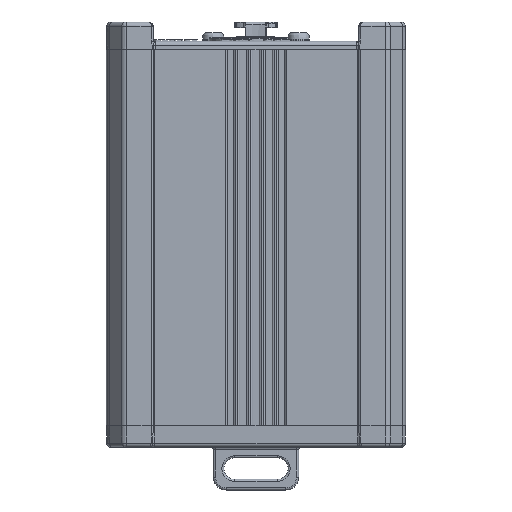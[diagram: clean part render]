
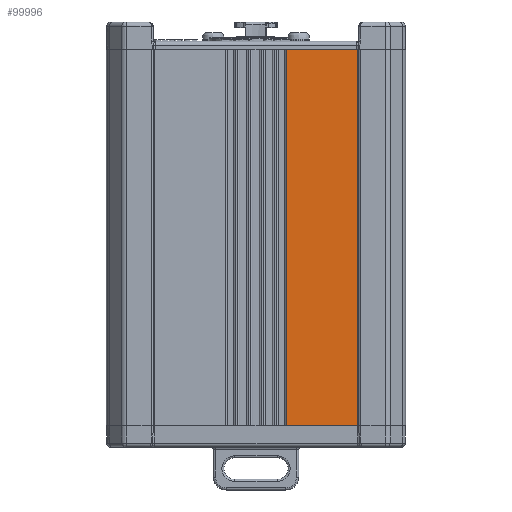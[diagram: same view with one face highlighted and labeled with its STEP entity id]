
A CAD part, front view. The second image highlights one B-rep face of the part: STEP entity #99996.
In plain terms, the highlighted planar face has unit normal (0, -1, 0).
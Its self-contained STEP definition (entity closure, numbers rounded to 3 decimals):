
#2516=FACE_OUTER_BOUND('',#8027,.T.);
#8027=EDGE_LOOP('',(#66004,#66005,#66006,#66007));
#15468=LINE('',#139807,#27933);
#15591=LINE('',#140340,#28056);
#15717=LINE('',#140670,#28182);
#15718=LINE('',#140672,#28183);
#27933=VECTOR('',#113045,16.384);
#28056=VECTOR('',#113472,16.384);
#28182=VECTOR('',#113852,88.);
#28183=VECTOR('',#113855,88.);
#40437=VERTEX_POINT('',#139804);
#40438=VERTEX_POINT('',#139806);
#40695=VERTEX_POINT('',#140337);
#40696=VERTEX_POINT('',#140339);
#50231=EDGE_CURVE('',#40437,#40438,#15468,.T.);
#50493=EDGE_CURVE('',#40696,#40695,#15591,.T.);
#50661=EDGE_CURVE('',#40696,#40437,#15717,.T.);
#50662=EDGE_CURVE('',#40695,#40438,#15718,.T.);
#66004=ORIENTED_EDGE('',*,*,#50662,.T.);
#66005=ORIENTED_EDGE('',*,*,#50231,.F.);
#66006=ORIENTED_EDGE('',*,*,#50661,.F.);
#66007=ORIENTED_EDGE('',*,*,#50493,.T.);
#95447=PLANE('',#106115);
#99996=ADVANCED_FACE('',(#2516),#95447,.F.);
#106115=AXIS2_PLACEMENT_3D('',#140671,#113853,#113854);
#113045=DIRECTION('',(-1.,0.,0.));
#113472=DIRECTION('',(-1.,0.,0.));
#113852=DIRECTION('',(0.,0.,-1.));
#113853=DIRECTION('center_axis',(0.,1.,0.));
#113854=DIRECTION('ref_axis',(-1.,0.,0.));
#113855=DIRECTION('',(0.,0.,-1.));
#139804=CARTESIAN_POINT('',(23.634,-20.5,-44.));
#139806=CARTESIAN_POINT('',(7.25,-20.5,-44.));
#139807=CARTESIAN_POINT('',(23.634,-20.5,-44.));
#140337=CARTESIAN_POINT('',(7.25,-20.5,44.));
#140339=CARTESIAN_POINT('',(23.634,-20.5,44.));
#140340=CARTESIAN_POINT('',(23.634,-20.5,44.));
#140670=CARTESIAN_POINT('',(23.634,-20.5,44.));
#140671=CARTESIAN_POINT('Origin',(24.,-20.5,44.));
#140672=CARTESIAN_POINT('',(7.25,-20.5,44.));
